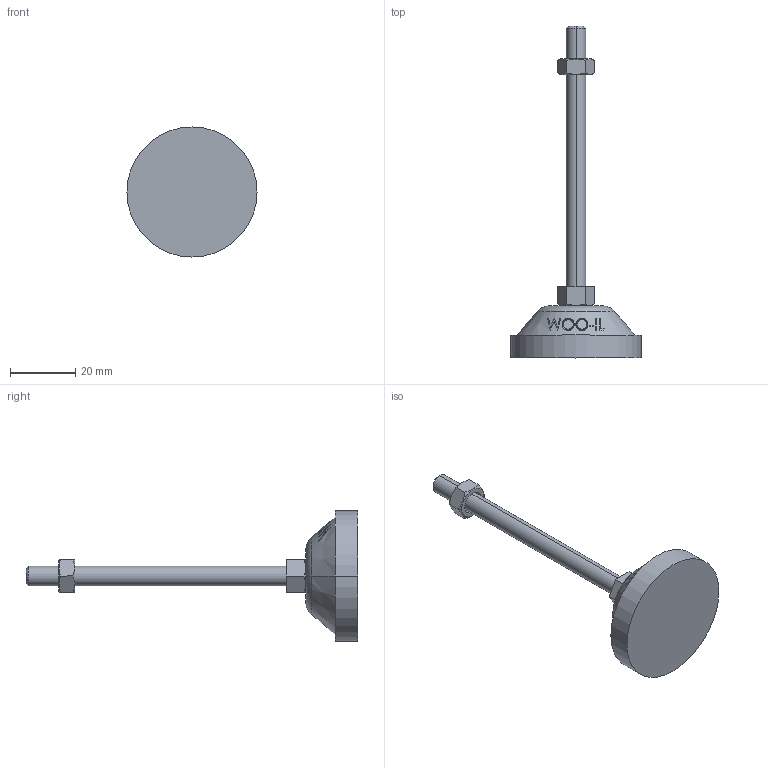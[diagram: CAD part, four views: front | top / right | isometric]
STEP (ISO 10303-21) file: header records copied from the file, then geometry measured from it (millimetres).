
FILE_DESCRIPTION (( 'STEP AP214' ), '1' );
FILE_NAME ('RL40-M6-80.step', '2021-01-06T08:15:45', ( '' ), ( '' ), 'SwSTEP 2.0', 'SolidWorks 2019', '' );
FILE_SCHEMA (( 'AUTOMOTIVE_DESIGN' ));
Length unit declared in the file: millimetre
Products named in the file (1): RL40-M6-80
Bounding box: 40 x 102 x 40 mm (x, y, z)
Volume: 17684.4 mm3; surface area: 5992.9 mm2
Topology: 3 solids, 3 shells, 93 faces, 217 edges, 140 vertices
Faces by surface type: plane 47, cone 22, bspline 16, cylinder 6, torus 2
Entity records: 4025 total; most frequent: CARTESIAN_POINT 1993, ORIENTED_EDGE 434, DIRECTION 349, EDGE_CURVE 217, VERTEX_POINT 140, AXIS2_PLACEMENT_3D 134, EDGE_LOOP 105, FACE_OUTER_BOUND 93
